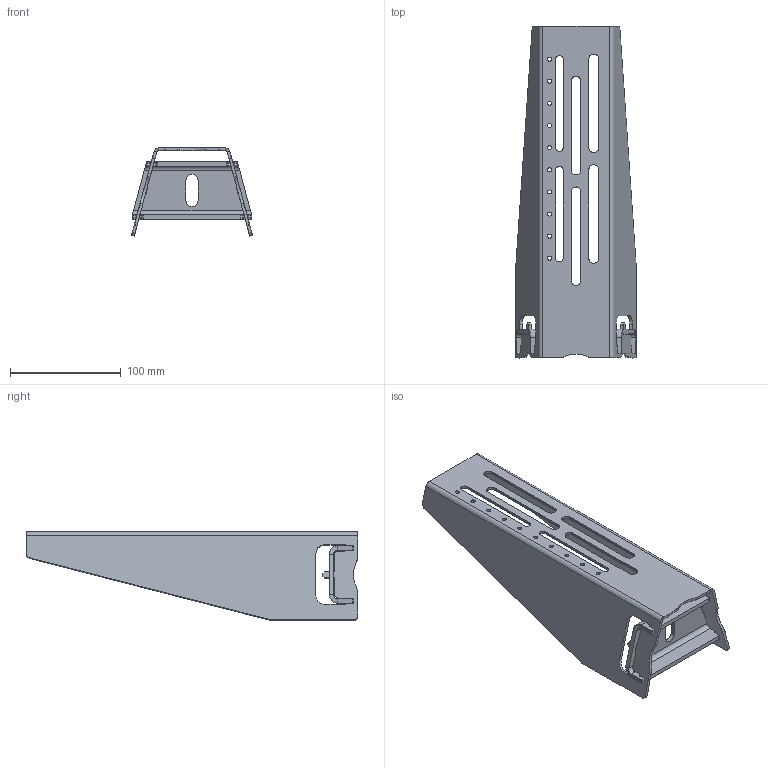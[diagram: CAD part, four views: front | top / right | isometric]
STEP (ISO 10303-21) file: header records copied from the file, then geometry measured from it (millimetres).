
FILE_DESCRIPTION (( 'STEP AP214' ), '1' );
FILE_NAME ('080043-11X11X0300 KONSOLE 0800 300M.STEP', '2013-01-17T10:34:04', ( '' ), ( '' ), 'SwSTEP 2.0', 'SolidWorks 2012', '' );
FILE_SCHEMA (( 'AUTOMOTIVE_DESIGN' ));
Length unit declared in the file: millimetre
Products named in the file (3): 08-B020-6806; 08-B020-6748; 080043-11X11X0300 KONSOLE 0800 300M
Assembly tree (2 placements, depth 2):
  080043-11X11X0300 KONSOLE 0800 300M
    08-B020-6748
    08-B020-6806
Bounding box: 109.31 x 300 x 79.77 mm (x, y, z)
Volume: 150159 mm3; surface area: 119688.7 mm2
Topology: 2 solids, 2 shells, 242 faces, 682 edges, 444 vertices
Faces by surface type: cylinder 131, plane 107, bspline 4
Entity records: 9767 total; most frequent: CARTESIAN_POINT 1505, DIRECTION 1414, ORIENTED_EDGE 1364, EDGE_CURVE 682, AXIS2_PLACEMENT_3D 497, VERTEX_POINT 444, VECTOR 420, LINE 420
